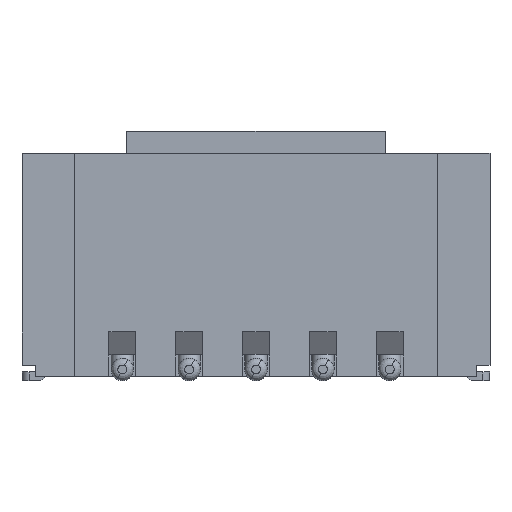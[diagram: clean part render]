
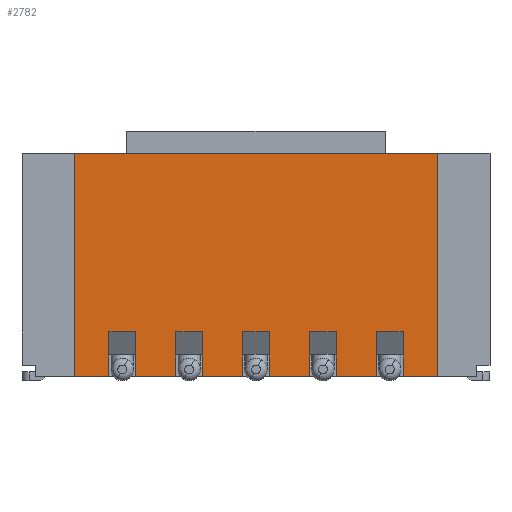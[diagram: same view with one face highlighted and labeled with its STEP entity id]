
A CAD part, top view. The second image highlights one B-rep face of the part: STEP entity #2782.
In plain terms, the highlighted planar face has unit normal (0, 0, 1).
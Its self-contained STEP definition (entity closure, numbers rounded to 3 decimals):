
#909=CARTESIAN_POINT('Vertex',(-4.075,0.,1.825)) ;
#923=CARTESIAN_POINT('Vertex',(-4.075,-5.,1.825)) ;
#926=CARTESIAN_POINT('Line Origine',(-4.075,-2.5,1.825)) ;
#956=CARTESIAN_POINT('Vertex',(4.075,0.,1.825)) ;
#959=CARTESIAN_POINT('Line Origine',(4.075,-2.5,1.825)) ;
#963=CARTESIAN_POINT('Vertex',(4.075,-5.,1.825)) ;
#1727=CARTESIAN_POINT('Vertex',(3.3,-4.,1.825)) ;
#1730=CARTESIAN_POINT('Line Origine',(3.,-4.,1.825)) ;
#1734=CARTESIAN_POINT('Vertex',(2.7,-4.,1.825)) ;
#1763=CARTESIAN_POINT('Vertex',(3.3,-5.,1.825)) ;
#1766=CARTESIAN_POINT('Line Origine',(3.3,-4.5,1.825)) ;
#1784=CARTESIAN_POINT('Line Origine',(2.7,-4.5,1.825)) ;
#1788=CARTESIAN_POINT('Vertex',(2.7,-5.,1.825)) ;
#2165=CARTESIAN_POINT('Line Origine',(2.25,-5.,1.825)) ;
#2169=CARTESIAN_POINT('Vertex',(1.8,-5.,1.825)) ;
#2216=CARTESIAN_POINT('Vertex',(1.8,-4.,1.825)) ;
#2219=CARTESIAN_POINT('Line Origine',(1.5,-4.,1.825)) ;
#2223=CARTESIAN_POINT('Vertex',(1.2,-4.,1.825)) ;
#2248=CARTESIAN_POINT('Line Origine',(1.8,-4.5,1.825)) ;
#2266=CARTESIAN_POINT('Line Origine',(1.2,-4.5,1.825)) ;
#2270=CARTESIAN_POINT('Vertex',(1.2,-5.,1.825)) ;
#2326=CARTESIAN_POINT('Line Origine',(0.75,-5.,1.825)) ;
#2330=CARTESIAN_POINT('Vertex',(0.3,-5.,1.825)) ;
#2358=CARTESIAN_POINT('Vertex',(0.3,-4.,1.825)) ;
#2361=CARTESIAN_POINT('Line Origine',(0.,-4.,1.825)) ;
#2365=CARTESIAN_POINT('Vertex',(-0.3,-4.,1.825)) ;
#2390=CARTESIAN_POINT('Line Origine',(0.3,-4.5,1.825)) ;
#2408=CARTESIAN_POINT('Line Origine',(-0.3,-4.5,1.825)) ;
#2412=CARTESIAN_POINT('Vertex',(-0.3,-5.,1.825)) ;
#2449=CARTESIAN_POINT('Line Origine',(-0.75,-5.,1.825)) ;
#2453=CARTESIAN_POINT('Vertex',(-1.2,-5.,1.825)) ;
#2500=CARTESIAN_POINT('Vertex',(-1.2,-4.,1.825)) ;
#2503=CARTESIAN_POINT('Line Origine',(-1.5,-4.,1.825)) ;
#2507=CARTESIAN_POINT('Vertex',(-1.8,-4.,1.825)) ;
#2532=CARTESIAN_POINT('Line Origine',(-1.2,-4.5,1.825)) ;
#2550=CARTESIAN_POINT('Line Origine',(-1.8,-4.5,1.825)) ;
#2554=CARTESIAN_POINT('Vertex',(-1.8,-5.,1.825)) ;
#2636=CARTESIAN_POINT('Line Origine',(-3.688,-5.,1.825)) ;
#2640=CARTESIAN_POINT('Vertex',(-3.3,-5.,1.825)) ;
#2663=CARTESIAN_POINT('Line Origine',(3.688,-5.,1.825)) ;
#2708=CARTESIAN_POINT('Line Origine',(-2.25,-5.,1.825)) ;
#2712=CARTESIAN_POINT('Vertex',(-2.7,-5.,1.825)) ;
#2727=CARTESIAN_POINT('Axis2P3D Location',(-4.075,-5.,1.825)) ;
#2732=CARTESIAN_POINT('Line Origine',(0.,0.,1.825)) ;
#2737=CARTESIAN_POINT('Line Origine',(-3.3,-4.5,1.825)) ;
#2741=CARTESIAN_POINT('Vertex',(-3.3,-4.,1.825)) ;
#2744=CARTESIAN_POINT('Line Origine',(-3.,-4.,1.825)) ;
#2748=CARTESIAN_POINT('Vertex',(-2.7,-4.,1.825)) ;
#2751=CARTESIAN_POINT('Line Origine',(-2.7,-4.5,1.825)) ;
#927=DIRECTION('Vector Direction',(0.,1.,0.)) ;
#960=DIRECTION('Vector Direction',(0.,1.,0.)) ;
#1731=DIRECTION('Vector Direction',(-1.,0.,0.)) ;
#1767=DIRECTION('Vector Direction',(0.,-1.,0.)) ;
#1785=DIRECTION('Vector Direction',(0.,-1.,0.)) ;
#2166=DIRECTION('Vector Direction',(1.,0.,0.)) ;
#2220=DIRECTION('Vector Direction',(-1.,0.,0.)) ;
#2249=DIRECTION('Vector Direction',(0.,-1.,0.)) ;
#2267=DIRECTION('Vector Direction',(0.,-1.,0.)) ;
#2327=DIRECTION('Vector Direction',(1.,0.,0.)) ;
#2362=DIRECTION('Vector Direction',(-1.,0.,0.)) ;
#2391=DIRECTION('Vector Direction',(0.,-1.,0.)) ;
#2409=DIRECTION('Vector Direction',(0.,-1.,0.)) ;
#2450=DIRECTION('Vector Direction',(1.,0.,0.)) ;
#2504=DIRECTION('Vector Direction',(-1.,0.,0.)) ;
#2533=DIRECTION('Vector Direction',(0.,-1.,0.)) ;
#2551=DIRECTION('Vector Direction',(0.,-1.,0.)) ;
#2637=DIRECTION('Vector Direction',(1.,0.,0.)) ;
#2664=DIRECTION('Vector Direction',(1.,0.,0.)) ;
#2709=DIRECTION('Vector Direction',(1.,0.,0.)) ;
#2728=DIRECTION('Axis2P3D Direction',(0.,0.,1.)) ;
#2729=DIRECTION('Axis2P3D XDirection',(1.,0.,0.)) ;
#2733=DIRECTION('Vector Direction',(1.,0.,0.)) ;
#2738=DIRECTION('Vector Direction',(0.,-1.,0.)) ;
#2745=DIRECTION('Vector Direction',(-1.,0.,0.)) ;
#2752=DIRECTION('Vector Direction',(0.,-1.,0.)) ;
#2730=AXIS2_PLACEMENT_3D('Plane Axis2P3D',#2727,#2728,#2729) ;
#2757=ORIENTED_EDGE('',*,*,#2714,.T.) ;
#2758=ORIENTED_EDGE('',*,*,#2556,.F.) ;
#2759=ORIENTED_EDGE('',*,*,#2509,.F.) ;
#2760=ORIENTED_EDGE('',*,*,#2536,.T.) ;
#2761=ORIENTED_EDGE('',*,*,#2455,.T.) ;
#2762=ORIENTED_EDGE('',*,*,#2414,.F.) ;
#2763=ORIENTED_EDGE('',*,*,#2367,.F.) ;
#2764=ORIENTED_EDGE('',*,*,#2394,.T.) ;
#2765=ORIENTED_EDGE('',*,*,#2332,.T.) ;
#2766=ORIENTED_EDGE('',*,*,#2272,.F.) ;
#2767=ORIENTED_EDGE('',*,*,#2225,.F.) ;
#2768=ORIENTED_EDGE('',*,*,#2252,.T.) ;
#2769=ORIENTED_EDGE('',*,*,#2171,.T.) ;
#2770=ORIENTED_EDGE('',*,*,#1790,.F.) ;
#2771=ORIENTED_EDGE('',*,*,#1736,.F.) ;
#2772=ORIENTED_EDGE('',*,*,#1770,.T.) ;
#2773=ORIENTED_EDGE('',*,*,#2667,.T.) ;
#2774=ORIENTED_EDGE('',*,*,#965,.T.) ;
#2775=ORIENTED_EDGE('',*,*,#2736,.F.) ;
#2776=ORIENTED_EDGE('',*,*,#930,.F.) ;
#2777=ORIENTED_EDGE('',*,*,#2642,.T.) ;
#2778=ORIENTED_EDGE('',*,*,#2743,.F.) ;
#2779=ORIENTED_EDGE('',*,*,#2750,.F.) ;
#2780=ORIENTED_EDGE('',*,*,#2755,.T.) ;
#928=VECTOR('Line Direction',#927,1.) ;
#961=VECTOR('Line Direction',#960,1.) ;
#1732=VECTOR('Line Direction',#1731,1.) ;
#1768=VECTOR('Line Direction',#1767,1.) ;
#1786=VECTOR('Line Direction',#1785,1.) ;
#2167=VECTOR('Line Direction',#2166,1.) ;
#2221=VECTOR('Line Direction',#2220,1.) ;
#2250=VECTOR('Line Direction',#2249,1.) ;
#2268=VECTOR('Line Direction',#2267,1.) ;
#2328=VECTOR('Line Direction',#2327,1.) ;
#2363=VECTOR('Line Direction',#2362,1.) ;
#2392=VECTOR('Line Direction',#2391,1.) ;
#2410=VECTOR('Line Direction',#2409,1.) ;
#2451=VECTOR('Line Direction',#2450,1.) ;
#2505=VECTOR('Line Direction',#2504,1.) ;
#2534=VECTOR('Line Direction',#2533,1.) ;
#2552=VECTOR('Line Direction',#2551,1.) ;
#2638=VECTOR('Line Direction',#2637,1.) ;
#2665=VECTOR('Line Direction',#2664,1.) ;
#2710=VECTOR('Line Direction',#2709,1.) ;
#2734=VECTOR('Line Direction',#2733,1.) ;
#2739=VECTOR('Line Direction',#2738,1.) ;
#2746=VECTOR('Line Direction',#2745,1.) ;
#2753=VECTOR('Line Direction',#2752,1.) ;
#2782=ADVANCED_FACE('\X2\96F64EF651E04F554F53\X0\',(#2781),#2731,.T.) ;
#930=EDGE_CURVE('',#924,#910,#929,.T.) ;
#965=EDGE_CURVE('',#964,#957,#962,.T.) ;
#1736=EDGE_CURVE('',#1728,#1735,#1733,.T.) ;
#1770=EDGE_CURVE('',#1728,#1764,#1769,.T.) ;
#1790=EDGE_CURVE('',#1735,#1789,#1787,.T.) ;
#2171=EDGE_CURVE('',#2170,#1789,#2168,.T.) ;
#2225=EDGE_CURVE('',#2217,#2224,#2222,.T.) ;
#2252=EDGE_CURVE('',#2217,#2170,#2251,.T.) ;
#2272=EDGE_CURVE('',#2224,#2271,#2269,.T.) ;
#2332=EDGE_CURVE('',#2331,#2271,#2329,.T.) ;
#2367=EDGE_CURVE('',#2359,#2366,#2364,.T.) ;
#2394=EDGE_CURVE('',#2359,#2331,#2393,.T.) ;
#2414=EDGE_CURVE('',#2366,#2413,#2411,.T.) ;
#2455=EDGE_CURVE('',#2454,#2413,#2452,.T.) ;
#2509=EDGE_CURVE('',#2501,#2508,#2506,.T.) ;
#2536=EDGE_CURVE('',#2501,#2454,#2535,.T.) ;
#2556=EDGE_CURVE('',#2508,#2555,#2553,.T.) ;
#2642=EDGE_CURVE('',#924,#2641,#2639,.T.) ;
#2667=EDGE_CURVE('',#1764,#964,#2666,.T.) ;
#2714=EDGE_CURVE('',#2713,#2555,#2711,.T.) ;
#2736=EDGE_CURVE('',#910,#957,#2735,.T.) ;
#2743=EDGE_CURVE('',#2742,#2641,#2740,.T.) ;
#2750=EDGE_CURVE('',#2749,#2742,#2747,.T.) ;
#2755=EDGE_CURVE('',#2749,#2713,#2754,.T.) ;
#2756=EDGE_LOOP('',(#2757,#2758,#2759,#2760,#2761,#2762,#2763,#2764,#2765,#2766,#2767,#2768,#2769,#2770,#2771,#2772,#2773,#2774,#2775,#2776,#2777,#2778,#2779,#2780)) ;
#2781=FACE_OUTER_BOUND('',#2756,.T.) ;
#929=LINE('Line',#926,#928) ;
#962=LINE('Line',#959,#961) ;
#1733=LINE('Line',#1730,#1732) ;
#1769=LINE('Line',#1766,#1768) ;
#1787=LINE('Line',#1784,#1786) ;
#2168=LINE('Line',#2165,#2167) ;
#2222=LINE('Line',#2219,#2221) ;
#2251=LINE('Line',#2248,#2250) ;
#2269=LINE('Line',#2266,#2268) ;
#2329=LINE('Line',#2326,#2328) ;
#2364=LINE('Line',#2361,#2363) ;
#2393=LINE('Line',#2390,#2392) ;
#2411=LINE('Line',#2408,#2410) ;
#2452=LINE('Line',#2449,#2451) ;
#2506=LINE('Line',#2503,#2505) ;
#2535=LINE('Line',#2532,#2534) ;
#2553=LINE('Line',#2550,#2552) ;
#2639=LINE('Line',#2636,#2638) ;
#2666=LINE('Line',#2663,#2665) ;
#2711=LINE('Line',#2708,#2710) ;
#2735=LINE('Line',#2732,#2734) ;
#2740=LINE('Line',#2737,#2739) ;
#2747=LINE('Line',#2744,#2746) ;
#2754=LINE('Line',#2751,#2753) ;
#2731=PLANE('Plane',#2730) ;
#910=VERTEX_POINT('',#909) ;
#924=VERTEX_POINT('',#923) ;
#957=VERTEX_POINT('',#956) ;
#964=VERTEX_POINT('',#963) ;
#1728=VERTEX_POINT('',#1727) ;
#1735=VERTEX_POINT('',#1734) ;
#1764=VERTEX_POINT('',#1763) ;
#1789=VERTEX_POINT('',#1788) ;
#2170=VERTEX_POINT('',#2169) ;
#2217=VERTEX_POINT('',#2216) ;
#2224=VERTEX_POINT('',#2223) ;
#2271=VERTEX_POINT('',#2270) ;
#2331=VERTEX_POINT('',#2330) ;
#2359=VERTEX_POINT('',#2358) ;
#2366=VERTEX_POINT('',#2365) ;
#2413=VERTEX_POINT('',#2412) ;
#2454=VERTEX_POINT('',#2453) ;
#2501=VERTEX_POINT('',#2500) ;
#2508=VERTEX_POINT('',#2507) ;
#2555=VERTEX_POINT('',#2554) ;
#2641=VERTEX_POINT('',#2640) ;
#2713=VERTEX_POINT('',#2712) ;
#2742=VERTEX_POINT('',#2741) ;
#2749=VERTEX_POINT('',#2748) ;
